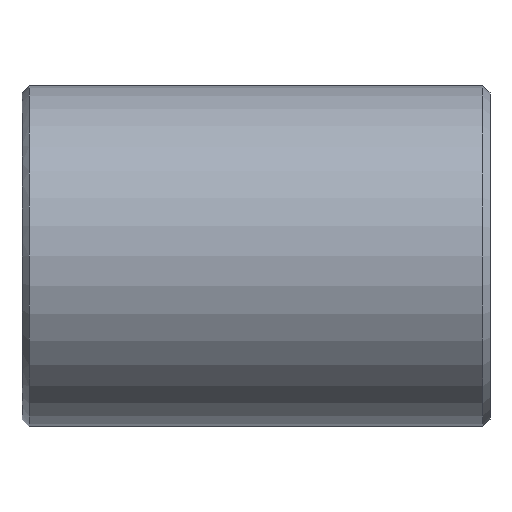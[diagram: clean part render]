
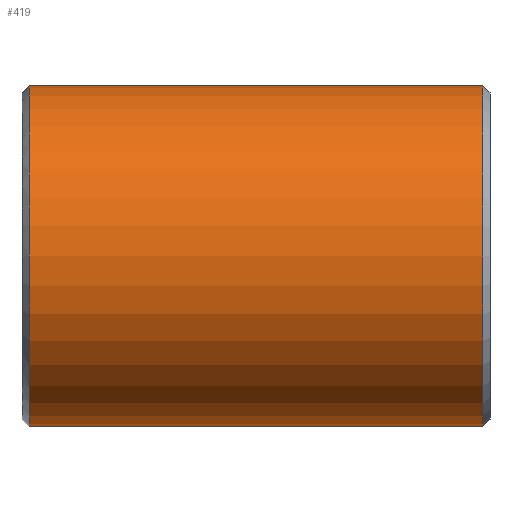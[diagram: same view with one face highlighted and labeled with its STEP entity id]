
A CAD part, front view. The second image highlights one B-rep face of the part: STEP entity #419.
In plain terms, the highlighted cylindrical face has radius 24 mm (diameter 48 mm), a partial arc.
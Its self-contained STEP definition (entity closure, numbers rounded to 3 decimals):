
#231=CARTESIAN_POINT('Vertex',(1.,0.,-24.)) ;
#238=CARTESIAN_POINT('Vertex',(1.,0.,24.)) ;
#267=CARTESIAN_POINT('Axis2P3D Location',(1.,0.,0.)) ;
#271=CARTESIAN_POINT('Vertex',(1.,-24.,0.)) ;
#274=CARTESIAN_POINT('Axis2P3D Location',(1.,0.,0.)) ;
#359=CARTESIAN_POINT('Line Origine',(66.,0.,24.)) ;
#363=CARTESIAN_POINT('Vertex',(65.,0.,24.)) ;
#377=CARTESIAN_POINT('Vertex',(65.,0.,-24.)) ;
#380=CARTESIAN_POINT('Line Origine',(66.,0.,-24.)) ;
#394=CARTESIAN_POINT('Axis2P3D Location',(66.,0.,0.)) ;
#399=CARTESIAN_POINT('Axis2P3D Location',(65.,0.,0.)) ;
#403=CARTESIAN_POINT('Vertex',(65.,-24.,0.)) ;
#406=CARTESIAN_POINT('Axis2P3D Location',(65.,0.,0.)) ;
#268=DIRECTION('Axis2P3D Direction',(1.,0.,-0.)) ;
#275=DIRECTION('Axis2P3D Direction',(1.,0.,-0.)) ;
#360=DIRECTION('Vector Direction',(-1.,0.,0.)) ;
#381=DIRECTION('Vector Direction',(-1.,0.,0.)) ;
#395=DIRECTION('Axis2P3D Direction',(-1.,-0.,-0.)) ;
#396=DIRECTION('Axis2P3D XDirection',(0.,0.,-1.)) ;
#400=DIRECTION('Axis2P3D Direction',(-1.,-0.,-0.)) ;
#407=DIRECTION('Axis2P3D Direction',(-1.,-0.,-0.)) ;
#269=AXIS2_PLACEMENT_3D('Circle Axis2P3D',#267,#268,$) ;
#276=AXIS2_PLACEMENT_3D('Circle Axis2P3D',#274,#275,$) ;
#397=AXIS2_PLACEMENT_3D('Cylinder Axis2P3D',#394,#395,#396) ;
#401=AXIS2_PLACEMENT_3D('Circle Axis2P3D',#399,#400,$) ;
#408=AXIS2_PLACEMENT_3D('Circle Axis2P3D',#406,#407,$) ;
#412=ORIENTED_EDGE('',*,*,#384,.T.) ;
#413=ORIENTED_EDGE('',*,*,#405,.F.) ;
#414=ORIENTED_EDGE('',*,*,#410,.F.) ;
#415=ORIENTED_EDGE('',*,*,#365,.T.) ;
#416=ORIENTED_EDGE('',*,*,#278,.T.) ;
#417=ORIENTED_EDGE('',*,*,#273,.T.) ;
#361=VECTOR('Line Direction',#360,1.) ;
#382=VECTOR('Line Direction',#381,1.) ;
#419=ADVANCED_FACE('352-40X66',(#418),#398,.T.) ;
#270=CIRCLE('generated circle',#269,24.) ;
#277=CIRCLE('generated circle',#276,24.) ;
#402=CIRCLE('generated circle',#401,24.) ;
#409=CIRCLE('generated circle',#408,24.) ;
#398=CYLINDRICAL_SURFACE('generated cylinder',#397,24.) ;
#273=EDGE_CURVE('',#272,#232,#270,.T.) ;
#278=EDGE_CURVE('',#239,#272,#277,.T.) ;
#365=EDGE_CURVE('',#364,#239,#362,.T.) ;
#384=EDGE_CURVE('',#232,#378,#383,.F.) ;
#405=EDGE_CURVE('',#404,#378,#402,.F.) ;
#410=EDGE_CURVE('',#364,#404,#409,.F.) ;
#411=EDGE_LOOP('',(#412,#413,#414,#415,#416,#417)) ;
#418=FACE_OUTER_BOUND('',#411,.T.) ;
#362=LINE('Line',#359,#361) ;
#383=LINE('Line',#380,#382) ;
#232=VERTEX_POINT('',#231) ;
#239=VERTEX_POINT('',#238) ;
#272=VERTEX_POINT('',#271) ;
#364=VERTEX_POINT('',#363) ;
#378=VERTEX_POINT('',#377) ;
#404=VERTEX_POINT('',#403) ;
